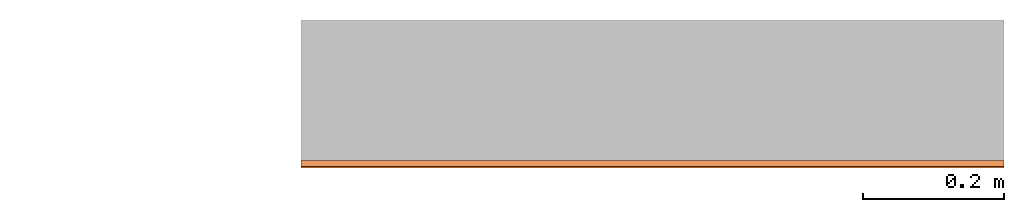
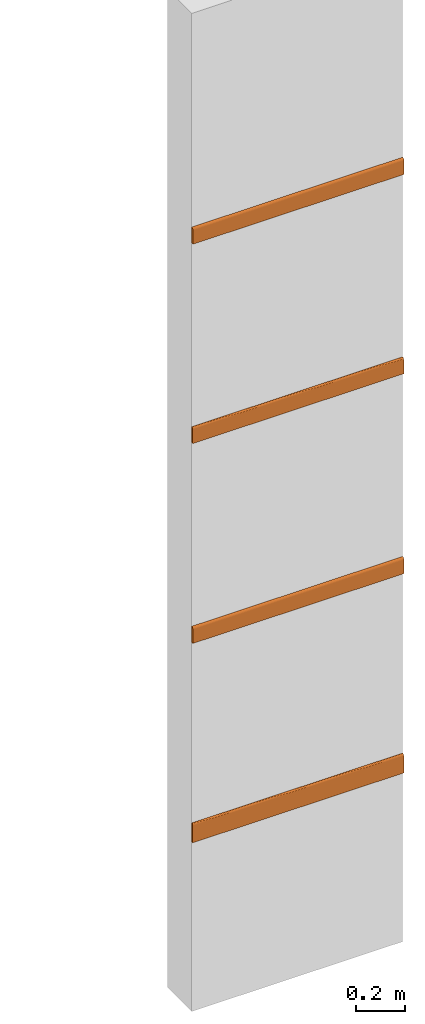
# One storey, part 3 of 3: 4 proxies.
"""IFC2X3 building model written with IfcOpenShell, lengths in millimetres."""

from ifc_helpers import new_model, entity, si_unit, converted_unit, derived_unit, direction, frame, frame_2d, origin, place, context, subcontext, project, spatial, polyline, circle_curve, parameter, trimmed, segment, composite_curve, outline, extrude, type_object, element, save


model = new_model("IFC2X3")

# Units and contexts
model_context = context("Model", 3, precision=0.01, world=origin(), true_north=direction((6.12303176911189e-17, 1.0)))
body_context = subcontext(model_context, "Body", "Model", "MODEL_VIEW")
ifc_project = project(units=[si_unit("LENGTHUNIT", "METRE", prefix="MILLI"), si_unit("AREAUNIT", "SQUARE_METRE"), si_unit("VOLUMEUNIT", "CUBIC_METRE"), converted_unit("PLANEANGLEUNIT", "DEGREE", entity("IfcRatioMeasure", 0.0174532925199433), si_unit("PLANEANGLEUNIT", "RADIAN"), dimensions=[0, 0, 0, 0, 0, 0, 0]), si_unit("MASSUNIT", "GRAM", prefix="KILO"), derived_unit("MASSDENSITYUNIT", [(si_unit("MASSUNIT", "GRAM", prefix="KILO"), 1), (si_unit("LENGTHUNIT", "METRE"), -3)]), derived_unit("MOMENTOFINERTIAUNIT", [(si_unit("LENGTHUNIT", "METRE"), 4)]), si_unit("TIMEUNIT", "SECOND"), si_unit("FREQUENCYUNIT", "HERTZ"), si_unit("THERMODYNAMICTEMPERATUREUNIT", "DEGREE_CELSIUS"), derived_unit("THERMALTRANSMITTANCEUNIT", [(si_unit("MASSUNIT", "GRAM", prefix="KILO"), 1), (si_unit("THERMODYNAMICTEMPERATUREUNIT", "KELVIN"), -1), (si_unit("TIMEUNIT", "SECOND"), -3)]), derived_unit("VOLUMETRICFLOWRATEUNIT", [(si_unit("LENGTHUNIT", "METRE"), 3), (si_unit("TIMEUNIT", "SECOND"), -1)]), si_unit("ELECTRICCURRENTUNIT", "AMPERE"), si_unit("ELECTRICVOLTAGEUNIT", "VOLT"), si_unit("POWERUNIT", "WATT"), si_unit("FORCEUNIT", "NEWTON", prefix="KILO"), si_unit("ILLUMINANCEUNIT", "LUX"), si_unit("LUMINOUSFLUXUNIT", "LUMEN"), si_unit("LUMINOUSINTENSITYUNIT", "CANDELA"), derived_unit("USERDEFINED", [(si_unit("MASSUNIT", "GRAM", prefix="KILO"), -1), (si_unit("LENGTHUNIT", "METRE"), -2), (si_unit("TIMEUNIT", "SECOND"), 3), (si_unit("LUMINOUSFLUXUNIT", "LUMEN"), 1)]), derived_unit("LINEARVELOCITYUNIT", [(si_unit("LENGTHUNIT", "METRE"), 1), (si_unit("TIMEUNIT", "SECOND"), -1)]), si_unit("PRESSUREUNIT", "PASCAL"), derived_unit("USERDEFINED", [(si_unit("LENGTHUNIT", "METRE"), -2), (si_unit("MASSUNIT", "GRAM", prefix="KILO"), 1), (si_unit("TIMEUNIT", "SECOND"), -2)]), derived_unit("LINEARFORCEUNIT", [(si_unit("MASSUNIT", "GRAM", prefix="KILO"), 1), (si_unit("LENGTHUNIT", "METRE"), 1), (si_unit("TIMEUNIT", "SECOND"), -2), (si_unit("LENGTHUNIT", "METRE"), -1)]), derived_unit("PLANARFORCEUNIT", [(si_unit("MASSUNIT", "GRAM", prefix="KILO"), 1), (si_unit("LENGTHUNIT", "METRE"), 1), (si_unit("TIMEUNIT", "SECOND"), -2), (si_unit("LENGTHUNIT", "METRE"), -2)])], contexts=[model_context])

# Site, building, storey
site_placement = place(None, origin())
site = spatial("IfcSite", under=ifc_project, at=site_placement, Name="Default", CompositionType="ELEMENT")
building_placement = place(site_placement, origin())
building = spatial("IfcBuilding", under=site, at=building_placement, CompositionType="ELEMENT")
storey_placement = place(building_placement, origin())
storey = spatial("IfcBuildingStorey", under=building, at=storey_placement, Name="Level 1", CompositionType="ELEMENT", Elevation=0.0)

# Proxies
building_element_proxy_type_1 = type_object("IfcBuildingElementProxyType", Name="Wall Sweep:REVIGRÉS-LOCUS-RB-8X60-SOFT GRIP-SMOG", PredefinedType="NOTDEFINED")
proxy_1_placement = place(storey_placement, origin())
element("IfcBuildingElementProxy", 1, at=proxy_1_placement, inside=storey, type_object=building_element_proxy_type_1, Name="Wall Sweep:REVIGRÉS-LOCUS-RB-8X60-SOFT GRIP-SMOG", ObjectType="Wall Sweep:REVIGRÉS-LOCUS-RB-8X60-SOFT GRIP-SMOG", context=body_context, shape_type="SweptSolid", body=[
    extrude(outline(composite_curve([segment(polyline([(-37.875, -4.25), (42.125, -4.25)]), True, "CONTINUOUS"), segment(trimmed(circle_curve(frame_2d((33.625, -4.25), x_axis=(0.0, 1.0)), 8.49999999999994), [parameter(270.0)], [parameter(0.0)], True, "PARAMETER"), True, "CONTINUOUS"), segment(polyline([(33.625, 4.25), (-37.875, 4.25)]), True, "CONTINUOUS"), segment(polyline([(-37.875, 4.25), (-37.875, -4.25)]), True, "CONTINUOUS")], self_intersect=False)), frame((19592.0023157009, -6977.36532249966, 2887.875), z_axis=(1.0, 0.0, 0.0), x_axis=(0.0, 0.0, 1.0)), (0.0, 0.0, 1.0), 1000.0),
])
building_element_proxy_type_2 = type_object("IfcBuildingElementProxyType", Name="Wall Sweep:REVIGRÉS-LOCUS-RB-8X90-SOFT GRIP-SMOG", PredefinedType="NOTDEFINED")
proxy_2_placement = place(storey_placement, origin())
element("IfcBuildingElementProxy", 2, at=proxy_2_placement, inside=storey, type_object=building_element_proxy_type_2, Name="Wall Sweep:REVIGRÉS-LOCUS-RB-8X90-SOFT GRIP-SMOG", ObjectType="Wall Sweep:REVIGRÉS-LOCUS-RB-8X90-SOFT GRIP-SMOG", context=body_context, shape_type="SweptSolid", body=[
    extrude(outline(composite_curve([segment(polyline([(-37.375, -5.24999999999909), (42.6250000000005, -5.24999999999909)]), True, "CONTINUOUS"), segment(trimmed(circle_curve(frame_2d((32.1250000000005, -5.24999999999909), x_axis=(0.0, 1.0)), 10.4999999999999), [parameter(270.0)], [parameter(0.0)], True, "PARAMETER"), True, "CONTINUOUS"), segment(polyline([(32.1250000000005, 5.25), (-37.375, 5.25)]), True, "CONTINUOUS"), segment(polyline([(-37.375, 5.25), (-37.375, -5.24999999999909)]), True, "CONTINUOUS")], self_intersect=False)), frame((19592.0023157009, -6978.36532249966, 1887.375), z_axis=(1.0, 0.0, 0.0), x_axis=(0.0, 0.0, 1.0)), (0.0, 0.0, 1.0), 1000.0),
])
building_element_proxy_type_3 = type_object("IfcBuildingElementProxyType", Name="Wall Sweep:REVIGRÉS-LOCUS-RB-8X45-SOFT GRIP-SMOG", PredefinedType="NOTDEFINED")
proxy_3_placement = place(storey_placement, origin())
element("IfcBuildingElementProxy", 3, at=proxy_3_placement, inside=storey, type_object=building_element_proxy_type_3, Name="Wall Sweep:REVIGRÉS-LOCUS-RB-8X45-SOFT GRIP-SMOG", ObjectType="Wall Sweep:REVIGRÉS-LOCUS-RB-8X45-SOFT GRIP-SMOG", context=body_context, shape_type="SweptSolid", body=[
    extrude(outline(composite_curve([segment(polyline([(-37.3750000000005, -5.24999999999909), (42.625, -5.24999999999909)]), True, "CONTINUOUS"), segment(trimmed(circle_curve(frame_2d((32.125, -5.24999999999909), x_axis=(0.0, 1.0)), 10.4999999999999), [parameter(270.0)], [parameter(0.0)], True, "PARAMETER"), True, "CONTINUOUS"), segment(polyline([(32.125, 5.25), (-37.3750000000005, 5.25)]), True, "CONTINUOUS"), segment(polyline([(-37.3750000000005, 5.25), (-37.3750000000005, -5.24999999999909)]), True, "CONTINUOUS")], self_intersect=False)), frame((19592.0023157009, -6978.36532249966, 3887.375), z_axis=(1.0, 0.0, 0.0), x_axis=(0.0, 0.0, 1.0)), (0.0, 0.0, 1.0), 1000.0),
])
building_element_proxy_type_4 = type_object("IfcBuildingElementProxyType", Name="Wall Sweep:REVIGRÉS-LOCUS-RB-9,5X30-SOFT GRIP-SMOG", PredefinedType="NOTDEFINED")
proxy_4_placement = place(storey_placement, origin())
element("IfcBuildingElementProxy", 4, at=proxy_4_placement, inside=storey, type_object=building_element_proxy_type_4, Name="Wall Sweep:REVIGRÉS-LOCUS-RB-9,5X30-SOFT GRIP-SMOG", ObjectType="Wall Sweep:REVIGRÉS-LOCUS-RB-9,5X30-SOFT GRIP-SMOG", context=body_context, shape_type="SweptSolid", body=[
    extrude(outline(composite_curve([segment(polyline([(-45.3749999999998, -4.25), (49.6250000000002, -4.25)]), True, "CONTINUOUS"), segment(trimmed(circle_curve(frame_2d((41.1249999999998, -4.25), x_axis=(0.0, 1.0)), 8.49999999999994), [parameter(270.0)], [parameter(0.0)], True, "PARAMETER"), True, "CONTINUOUS"), segment(polyline([(41.1249999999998, 4.25), (-45.3749999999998, 4.25)]), True, "CONTINUOUS"), segment(polyline([(-45.3749999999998, 4.25), (-45.3749999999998, -4.25)]), True, "CONTINUOUS")], self_intersect=False)), frame((19592.0023157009, -6977.36532249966, 895.375000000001), z_axis=(1.0, 0.0, 0.0), x_axis=(0.0, 0.0, 1.0)), (0.0, 0.0, 1.0), 1000.0),
])

save(model, "model.ifc")
